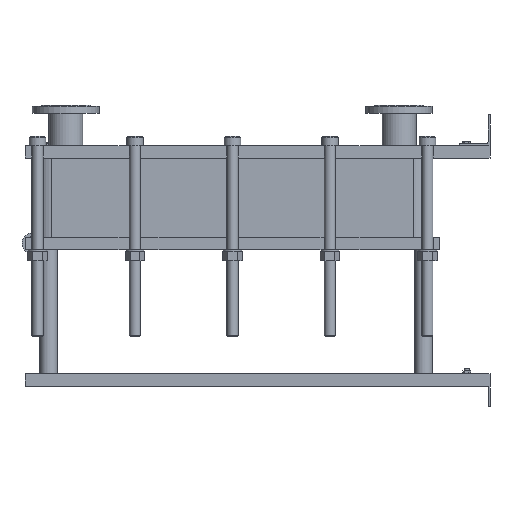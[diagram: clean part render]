
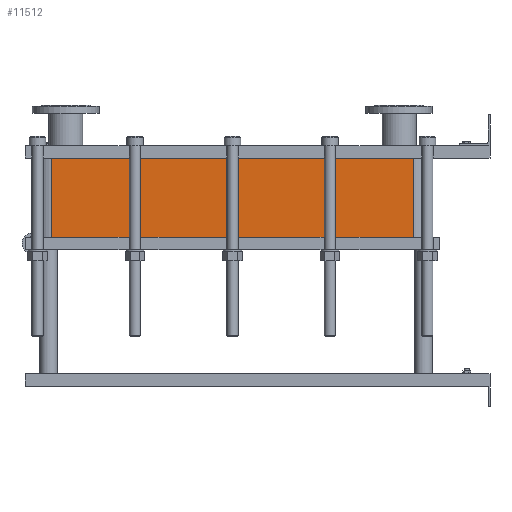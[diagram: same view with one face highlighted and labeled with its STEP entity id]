
A CAD part, left-side view. The second image highlights one B-rep face of the part: STEP entity #11512.
In plain terms, the highlighted planar face has unit normal (-1, 0, 0).
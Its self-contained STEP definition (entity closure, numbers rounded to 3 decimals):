
#1129=LINE('',#23232,#2102);
#1130=LINE('',#23236,#2103);
#1131=LINE('',#23238,#2104);
#1132=LINE('',#23239,#2105);
#2102=VECTOR('',#15887,10.);
#2103=VECTOR('',#15892,10.);
#2104=VECTOR('',#15893,10.);
#2105=VECTOR('',#15894,10.);
#3267=FACE_OUTER_BOUND('',#4093,.T.);
#4093=EDGE_LOOP('',(#10103,#10104,#10105,#10106));
#5642=VERTEX_POINT('',#23229);
#5643=VERTEX_POINT('',#23231);
#5644=VERTEX_POINT('',#23235);
#5645=VERTEX_POINT('',#23237);
#7159=EDGE_CURVE('',#5643,#5642,#1129,.T.);
#7161=EDGE_CURVE('',#5642,#5644,#1130,.T.);
#7162=EDGE_CURVE('',#5645,#5644,#1131,.T.);
#7163=EDGE_CURVE('',#5645,#5643,#1132,.T.);
#10103=ORIENTED_EDGE('',*,*,#7161,.T.);
#10104=ORIENTED_EDGE('',*,*,#7162,.F.);
#10105=ORIENTED_EDGE('',*,*,#7163,.T.);
#10106=ORIENTED_EDGE('',*,*,#7159,.T.);
#10857=PLANE('',#12751);
#11512=ADVANCED_FACE('',(#3267),#10857,.T.);
#12751=AXIS2_PLACEMENT_3D('',#23234,#15890,#15891);
#15887=DIRECTION('',(0.,0.,-1.));
#15890=DIRECTION('center_axis',(-1.,0.,0.));
#15891=DIRECTION('ref_axis',(0.,1.,0.));
#15892=DIRECTION('',(0.,-1.,0.));
#15893=DIRECTION('',(0.,0.,-1.));
#15894=DIRECTION('',(0.,1.,0.));
#23229=CARTESIAN_POINT('',(-200.,1414.,-255.3));
#23231=CARTESIAN_POINT('',(-200.,1414.,0.));
#23232=CARTESIAN_POINT('',(-200.,1414.,0.));
#23234=CARTESIAN_POINT('Origin',(-200.,248.,0.));
#23235=CARTESIAN_POINT('',(-200.,248.,-255.3));
#23236=CARTESIAN_POINT('',(-200.,539.5,-255.3));
#23237=CARTESIAN_POINT('',(-200.,248.,0.));
#23238=CARTESIAN_POINT('',(-200.,248.,0.));
#23239=CARTESIAN_POINT('',(-200.,248.,0.));
